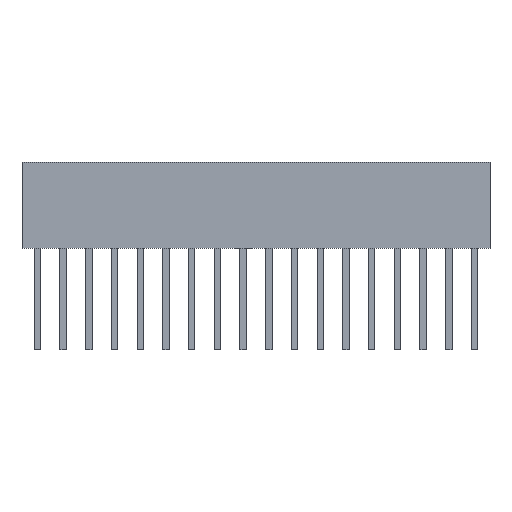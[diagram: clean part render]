
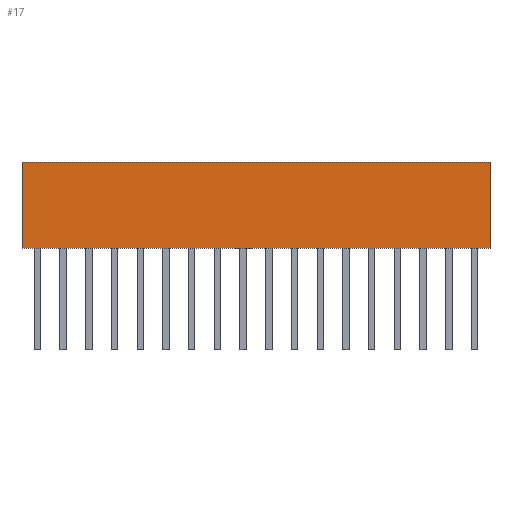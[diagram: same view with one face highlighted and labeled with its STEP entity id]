
A CAD part, left-side view. The second image highlights one B-rep face of the part: STEP entity #17.
In plain terms, the highlighted planar face has unit normal (-1, 0, 0).
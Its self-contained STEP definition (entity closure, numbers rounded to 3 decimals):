
#17 = ADVANCED_FACE('',(#18),#52,.F.);
#18 = FACE_BOUND('',#19,.F.);
#19 = EDGE_LOOP('',(#20,#30,#38,#46));
#20 = ORIENTED_EDGE('',*,*,#21,.F.);
#21 = EDGE_CURVE('',#22,#24,#26,.T.);
#22 = VERTEX_POINT('',#23);
#23 = CARTESIAN_POINT('',(92.775,-47.246,0.));
#24 = VERTEX_POINT('',#25);
#25 = CARTESIAN_POINT('',(92.775,-47.246,8.51));
#26 = LINE('',#27,#28);
#27 = CARTESIAN_POINT('',(92.775,-47.246,0.));
#28 = VECTOR('',#29,1.);
#29 = DIRECTION('',(0.,0.,1.));
#30 = ORIENTED_EDGE('',*,*,#31,.T.);
#31 = EDGE_CURVE('',#22,#32,#34,.T.);
#32 = VERTEX_POINT('',#33);
#33 = CARTESIAN_POINT('',(92.775,-1.016,0.));
#34 = LINE('',#35,#36);
#35 = CARTESIAN_POINT('',(92.775,-47.246,0.));
#36 = VECTOR('',#37,1.);
#37 = DIRECTION('',(-0.,1.,0.));
#38 = ORIENTED_EDGE('',*,*,#39,.T.);
#39 = EDGE_CURVE('',#32,#40,#42,.T.);
#40 = VERTEX_POINT('',#41);
#41 = CARTESIAN_POINT('',(92.775,-1.016,8.51));
#42 = LINE('',#43,#44);
#43 = CARTESIAN_POINT('',(92.775,-1.016,0.));
#44 = VECTOR('',#45,1.);
#45 = DIRECTION('',(0.,0.,1.));
#46 = ORIENTED_EDGE('',*,*,#47,.F.);
#47 = EDGE_CURVE('',#24,#40,#48,.T.);
#48 = LINE('',#49,#50);
#49 = CARTESIAN_POINT('',(92.775,-47.246,8.51));
#50 = VECTOR('',#51,1.);
#51 = DIRECTION('',(-0.,1.,0.));
#52 = PLANE('',#53);
#53 = AXIS2_PLACEMENT_3D('',#54,#55,#56);
#54 = CARTESIAN_POINT('',(92.775,-47.246,0.));
#55 = DIRECTION('',(1.,0.,-0.));
#56 = DIRECTION('',(0.,0.,1.));
